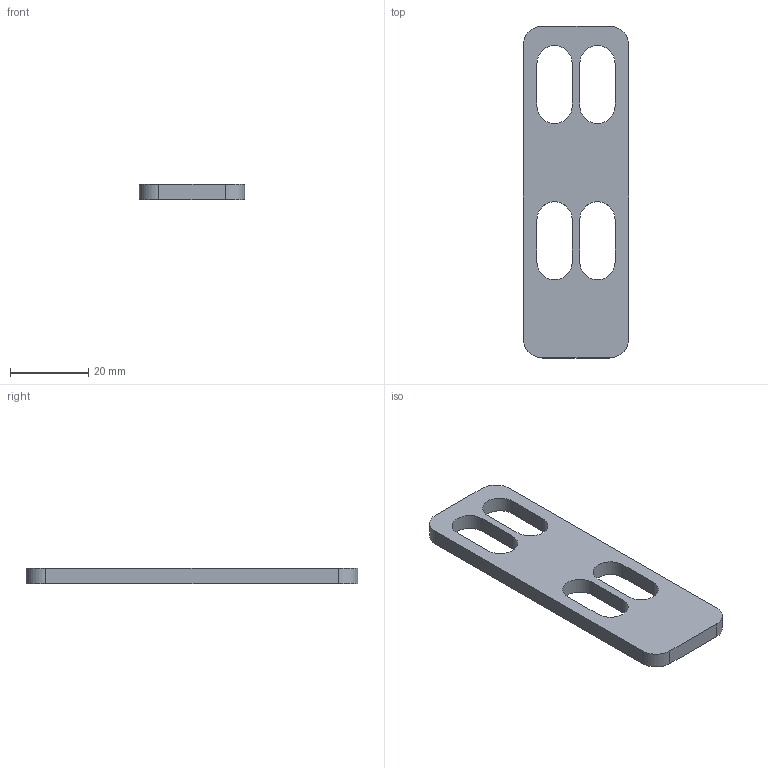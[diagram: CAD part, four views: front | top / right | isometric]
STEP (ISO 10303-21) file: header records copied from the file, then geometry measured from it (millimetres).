
FILE_DESCRIPTION (( 'STEP AP203' ), '1' );
FILE_NAME ('ORW-72.24.40.001 砑鳧罻.STEP', '2025-10-13T13:18:07', ( '燴僽樥' ), ( '' ), 'SwSTEP 2.0', 'SolidWorks 2025', '' );
FILE_SCHEMA (( 'CONFIG_CONTROL_DESIGN' ));
Length unit declared in the file: millimetre
Products named in the file (1): ORW-72.24.40.001 Планка
Bounding box: 27 x 85 x 4 mm (x, y, z)
Volume: 6492.3 mm3; surface area: 4912.2 mm2
Topology: 1 solids, 1 shells, 26 faces, 72 edges, 48 vertices
Faces by surface type: plane 14, cylinder 12
Entity records: 931 total; most frequent: DIRECTION 150, CARTESIAN_POINT 147, ORIENTED_EDGE 144, EDGE_CURVE 72, AXIS2_PLACEMENT_3D 51, LINE 48, VECTOR 48, VERTEX_POINT 48
